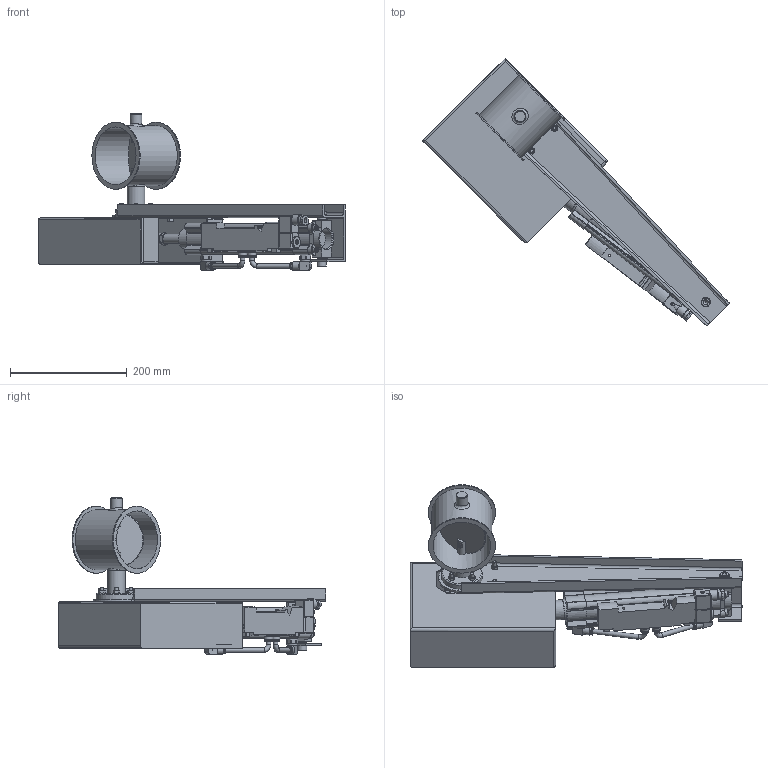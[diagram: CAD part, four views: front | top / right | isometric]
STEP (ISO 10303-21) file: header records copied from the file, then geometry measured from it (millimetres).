
FILE_DESCRIPTION((''),'2;1');
FILE_NAME('U:\Wolfgang\Marcel-3D\fertig\Kapitel 8\1021211.stp','2011-05-03T15:06:17',('TK1'),(''),'Autodesk Inventor 2010','Autodesk Inventor 2010','');
FILE_SCHEMA(('AUTOMOTIVE_DESIGN { 1 0 10303 214 1 1 1 1 }'));
Length unit declared in the file: millimetre
Products named in the file (38): 1021211; BuchseD15 70-50; Bolzen D15; Scheibe100; F1 Zylindereinheit; 174412_ZNCF_40_6_0; 174412_ZNCF_40_6_01; 174412_ZNCF_40_6_02; 174412_ZNCF_40_6_03; 174412_ZNCF_40_6_04; 174412_ZNCF_40_6_05; 532743_DNCB_40_160_PPV_A_6_0; 532743_DNCB_40_160_PPV_A_6_01; 532743_DNCB_40_160_PPV_A_6_02; 537600_VUVB_S_B42_ZD_Q8_3AC1_6_0; 537600_VUVB_S_B42_ZD_Q8_3AC1_6_01; 537600_VUVB_S_B42_ZD_Q8_3AC1_6_02; 537600_VUVB_S_B42_ZD_Q8_3AC1_6_03; 4527_MSFG_24_42_50_60_6_0; 4527_MSFG_24_42_50_60_6_01; 4527_MSFG_24_42_50_60_6_02; 153414_QSRL_1_4_8_6_0; schlauch; Strebe d15; 0021088 d15; Bolzen; Schutzkasten; Kasten-a; Kasten-b; 13570_CRSG_M12x125_6_0; ISO 4018 M6 x 20; ISO 4032 M6; ISO 4018 M8 x 30; ISO 4027 M6 x 10; DIN 6912 M6 x 16; 1021211-1; DIN 555 - ersetzt durch DIN EN 24034 M6; DIN EN ISO 4018 M6x25
Assembly tree (50 placements, depth 4):
  1021211
    BuchseD15 70-50
    Bolzen D15  x2
    Scheibe100
    F1 Zylindereinheit
      174412_ZNCF_40_6_0
        174412_ZNCF_40_6_01
        174412_ZNCF_40_6_02
        174412_ZNCF_40_6_03
        174412_ZNCF_40_6_04
        174412_ZNCF_40_6_05
      532743_DNCB_40_160_PPV_A_6_0
        532743_DNCB_40_160_PPV_A_6_01
        532743_DNCB_40_160_PPV_A_6_02
      537600_VUVB_S_B42_ZD_Q8_3AC1_6_0
        537600_VUVB_S_B42_ZD_Q8_3AC1_6_01
        537600_VUVB_S_B42_ZD_Q8_3AC1_6_02
        537600_VUVB_S_B42_ZD_Q8_3AC1_6_03
      4527_MSFG_24_42_50_60_6_0
        4527_MSFG_24_42_50_60_6_01
        4527_MSFG_24_42_50_60_6_02
      153414_QSRL_1_4_8_6_0  x2
      schlauch  x2
      Strebe d15
      0021088 d15
      Bolzen
      Schutzkasten
        Kasten-a
        Kasten-b
      13570_CRSG_M12x125_6_0
      ISO 4018 M6 x 20  x2
      ISO 4032 M6  x2
      ISO 4018 M8 x 30
      ISO 4027 M6 x 10  x2
    DIN 6912 M6 x 16  x2
    1021211-1
    DIN 555 - ersetzt durch DIN EN 24034 M6  x4
    DIN EN ISO 4018 M6x25  x4
Bounding box: 526.09 x 458.91 x 268.27 mm (x, y, z)
Volume: 1392714.3 mm3; surface area: 725943.3 mm2
Topology: 44 solids, 44 shells, 2620 faces, 6954 edges, 4518 vertices
Faces by surface type: plane 1948, cylinder 399, cone 223, bspline 41, torus 7, sphere 2
Full cylindrical faces by diameter (mm): 1 x3, 2.459 x1, 3 x4, 3.5 x1, 4 x1, 4.5 x1, 4.917 x8, 5 x2, 5.471 x2, 5.5 x1, 6 x37, 6.8 x4, 7.188 x1, 8 x10, 8.05 x1, 9 x2, 9.6 x2, 9.653 x1, 10 x8, 10.15 x2, 11.2 x2, 11.445 x2, 12 x6, 12.5 x1, 13.05 x2, 13.157 x2, 14 x8, 14.4 x4, 14.5 x2, 14.7 x6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
Entity records: 76281 total; most frequent: CARTESIAN_POINT 14860, ORIENTED_EDGE 12264, DIRECTION 11815, EDGE_CURVE 6132, VECTOR 4911, LINE 4911, VERTEX_POINT 4155, AXIS2_PLACEMENT_3D 3452
